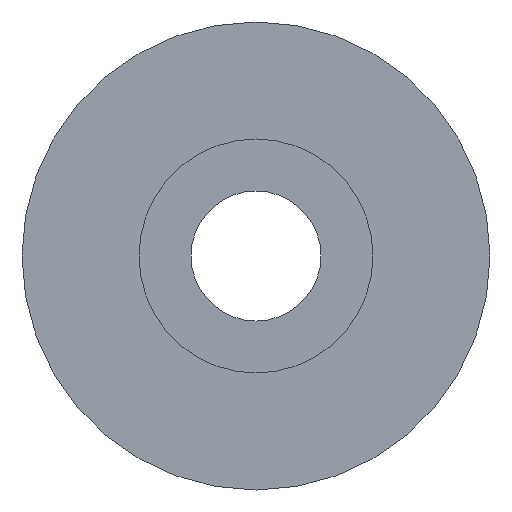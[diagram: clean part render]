
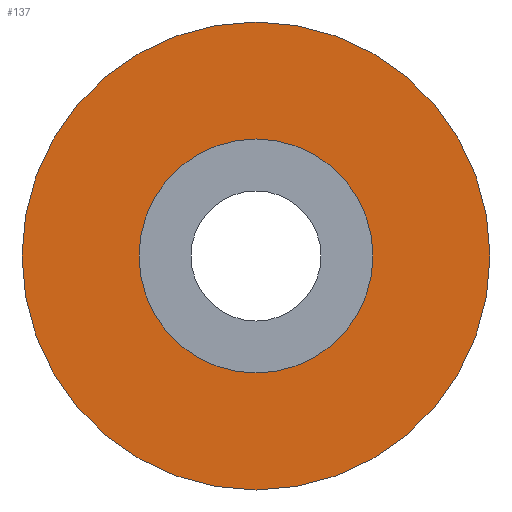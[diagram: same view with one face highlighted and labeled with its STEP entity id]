
A CAD part, front view. The second image highlights one B-rep face of the part: STEP entity #137.
In plain terms, the highlighted free-form (B-spline) face has degree [1, 1] with [2, 2] control points.
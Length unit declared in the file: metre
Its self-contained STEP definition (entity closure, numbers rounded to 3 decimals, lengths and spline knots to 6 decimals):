
#14=B_SPLINE_SURFACE_WITH_KNOTS('',1,1,((#282,#283),(#284,#285)),
 .PLANE_SURF.,.F.,.F.,.F.,(2,2),(2,2),(0.041942,0.956121),
(0.045438,0.957268),.PIECEWISE_BEZIER_KNOTS.);
#53=ORIENTED_EDGE('',*,*,#73,.F.);
#54=ORIENTED_EDGE('',*,*,#63,.F.);
#55=ORIENTED_EDGE('',*,*,#74,.T.);
#56=ORIENTED_EDGE('',*,*,#57,.T.);
#57=EDGE_CURVE('',#75,#76,#87,.T.);
#63=EDGE_CURVE('',#81,#82,#90,.T.);
#73=EDGE_CURVE('',#82,#81,#97,.T.);
#74=EDGE_CURVE('',#76,#75,#98,.T.);
#75=VERTEX_POINT('',#199);
#76=VERTEX_POINT('',#200);
#81=VERTEX_POINT('',#221);
#82=VERTEX_POINT('',#223);
#87=CIRCLE('',#151,0.009);
#90=CIRCLE('',#154,0.0045);
#97=CIRCLE('',#161,0.0045);
#98=CIRCLE('',#162,0.009);
#109=EDGE_LOOP('',(#53,#54));
#110=EDGE_LOOP('',(#55,#56));
#121=FACE_BOUND('',#109,.T.);
#122=FACE_BOUND('',#110,.T.);
#137=ADVANCED_FACE('',(#121,#122),#14,.T.);
#151=AXIS2_PLACEMENT_3D('',#198,#165,#166);
#154=AXIS2_PLACEMENT_3D('',#222,#171,#172);
#161=AXIS2_PLACEMENT_3D('',#268,#185,#186);
#162=AXIS2_PLACEMENT_3D('',#281,#187,#188);
#165=DIRECTION('',(0.,-1.,0.));
#166=DIRECTION('',(0.,0.,-1.));
#171=DIRECTION('',(0.,-1.,0.));
#172=DIRECTION('',(0.,0.,-1.));
#185=DIRECTION('',(0.,-1.,0.));
#186=DIRECTION('',(0.,0.,-1.));
#187=DIRECTION('',(0.,-1.,0.));
#188=DIRECTION('',(0.,0.,-1.));
#198=CARTESIAN_POINT('',(-0.039927,-0.001,-0.031499));
#199=CARTESIAN_POINT('',(-0.039927,-0.001,-0.040499));
#200=CARTESIAN_POINT('',(-0.039927,-0.001,-0.022499));
#221=CARTESIAN_POINT('',(-0.039927,-0.001,-0.035999));
#222=CARTESIAN_POINT('',(-0.039927,-0.001,-0.031499));
#223=CARTESIAN_POINT('',(-0.039927,-0.001,-0.026999));
#268=CARTESIAN_POINT('',(-0.039927,-0.001,-0.031499));
#281=CARTESIAN_POINT('',(-0.039927,-0.001,-0.031499));
#282=CARTESIAN_POINT('',(-0.049105,-0.001,-0.040608));
#283=CARTESIAN_POINT('',(-0.049105,-0.001,-0.022337));
#284=CARTESIAN_POINT('',(-0.030787,-0.001,-0.040608));
#285=CARTESIAN_POINT('',(-0.030787,-0.001,-0.022337));
